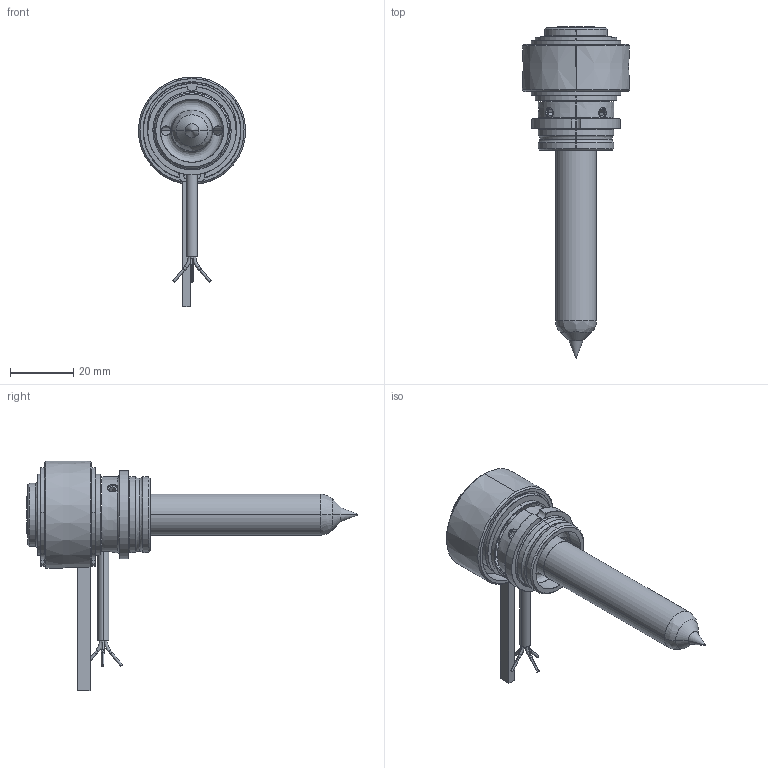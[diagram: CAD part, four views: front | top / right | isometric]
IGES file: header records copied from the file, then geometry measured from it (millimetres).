
Start section: SolidWorks IGES file using analytic representation for surfaces
Global section: file name: C:\Documents and Settings\ws-20\Desktop\TEM\UGGS2540-M-0 [Øf-0.25].IGS; native system: SolidWorks 2012; preprocessor: SolidWorks 2012; author: ws-20; date: 120516.093259; units: millimetre
Bounding box: 34 x 105.3 x 72.9 mm (x, y, z)
Surface area: 16072.4 mm2 (no closed solid volume)
Topology: 0 solids, 0 shells, 205 faces, 2895 edges, 2889 vertices
Faces by surface type: revolution 121, bspline 84
